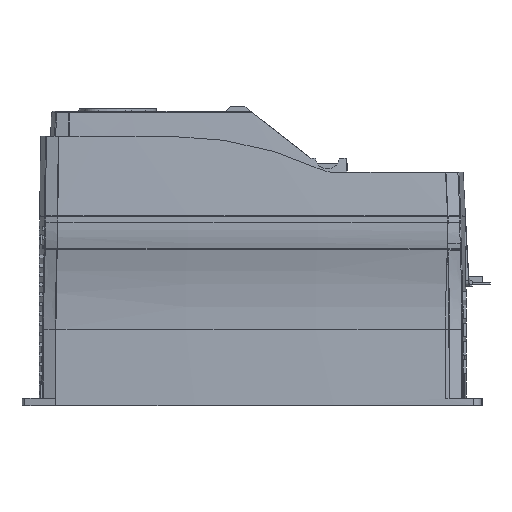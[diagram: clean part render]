
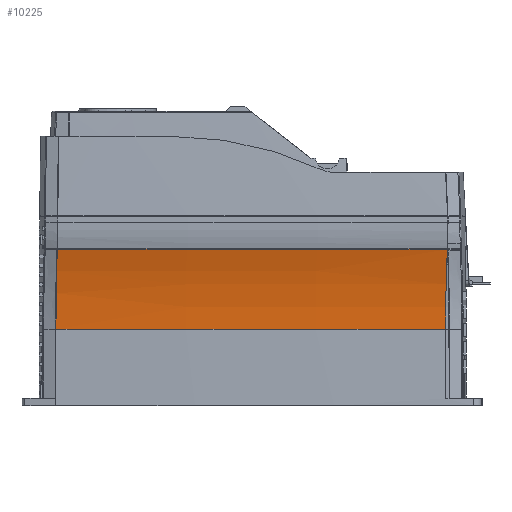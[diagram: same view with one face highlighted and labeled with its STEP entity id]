
A CAD part, left-side view. The second image highlights one B-rep face of the part: STEP entity #10225.
In plain terms, the highlighted toroidal (fillet/blend) face has major radius 3586.99 mm and minor radius 171.75 mm.
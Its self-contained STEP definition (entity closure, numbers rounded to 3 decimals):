
#647=CARTESIAN_POINT('',(-37.83,59.755,43.));
#648=CARTESIAN_POINT('',(-37.83,59.755,58.155));
#649=CARTESIAN_POINT('',(-39.859,59.527,73.319));
#650=CARTESIAN_POINT('',(-43.84,58.971,87.932));
#652=CARTESIAN_POINT('',(-43.857,-159.931,87.931));
#653=CARTESIAN_POINT('',(-42.541,-159.721,83.056));
#654=CARTESIAN_POINT('',(-40.339,-159.371,73.189));
#655=CARTESIAN_POINT('',(-38.346,-159.053,58.152));
#656=CARTESIAN_POINT('',(-37.903,-158.983,48.051));
#657=CARTESIAN_POINT('',(-37.903,-158.983,43.));
#659=CARTESIAN_POINT('',(3375.622,-50.75,43.));
#660=DIRECTION('',(0.,0.,-1.));
#661=DIRECTION('',(-0.999,-0.032,0.));
#662=AXIS2_PLACEMENT_3D('',#659,#660,#661);
#681=CARTESIAN_POINT('',(-43.84,58.971,87.932));
#726=CARTESIAN_POINT('',(3375.622,-50.75,87.931));
#727=DIRECTION('',(0.,0.,-1.));
#728=DIRECTION('',(-0.999,-0.032,0.));
#729=AXIS2_PLACEMENT_3D('',#726,#727,#728);
#7323=CARTESIAN_POINT('',(-37.83,59.755,43.));
#7324=VERTEX_POINT('',#7323);
#7329=VERTEX_POINT('',#681);
#7339=CARTESIAN_POINT('',(-43.857,-159.931,
87.931));
#7341=VERTEX_POINT('',#7339);
#8668=CARTESIAN_POINT('',(-37.903,-158.983,
43.));
#8669=VERTEX_POINT('',#8668);
#10211=CARTESIAN_POINT('',(3375.622,-50.75,
43.));
#10212=DIRECTION('',(0.,0.,1.));
#10213=DIRECTION('',(-0.999,-0.033,0.));
#10214=AXIS2_PLACEMENT_3D('',#10211,#10212,#10213);
#10215=TOROIDAL_SURFACE('',#10214,3586.99,171.75);
#10217=ORIENTED_EDGE('',*,*,#10216,.T.);
#10219=ORIENTED_EDGE('',*,*,#10218,.F.);
#10221=ORIENTED_EDGE('',*,*,#10220,.T.);
#10222=ORIENTED_EDGE('',*,*,#10123,.T.);
#10223=EDGE_LOOP('',(#10217,#10219,#10221,#10222));
#10224=FACE_OUTER_BOUND('',#10223,.F.);
#10225=ADVANCED_FACE('',(#10224),#10215,.F.);
#651=B_SPLINE_CURVE_WITH_KNOTS('',3,(#647,#648,#649,#650),.UNSPECIFIED.,.F.,.F.,
(4,4),(0.,1.),.UNSPECIFIED.);
#658=B_SPLINE_CURVE_WITH_KNOTS('',3,(#652,#653,#654,#655,#656,#657),
.UNSPECIFIED.,.F.,.F.,(4,1,1,4),(0.,0.333,0.667,1.),
.UNSPECIFIED.);
#663=CIRCLE('',#662,3415.24);
#730=CIRCLE('',#729,3421.221);
#10123=EDGE_CURVE('',#8669,#7324,#663,.T.);
#10216=EDGE_CURVE('',#7324,#7329,#651,.T.);
#10218=EDGE_CURVE('',#7341,#7329,#730,.T.);
#10220=EDGE_CURVE('',#7341,#8669,#658,.T.);
